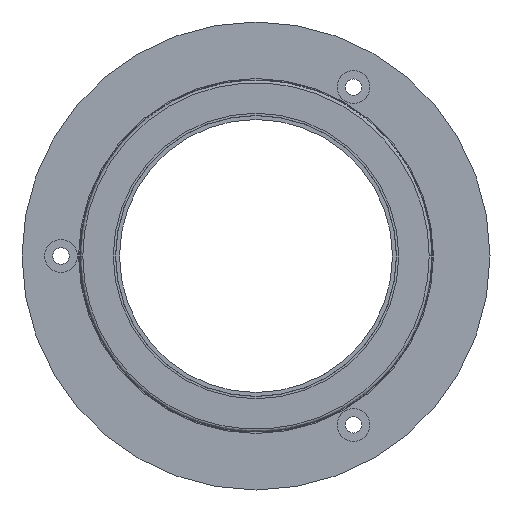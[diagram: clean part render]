
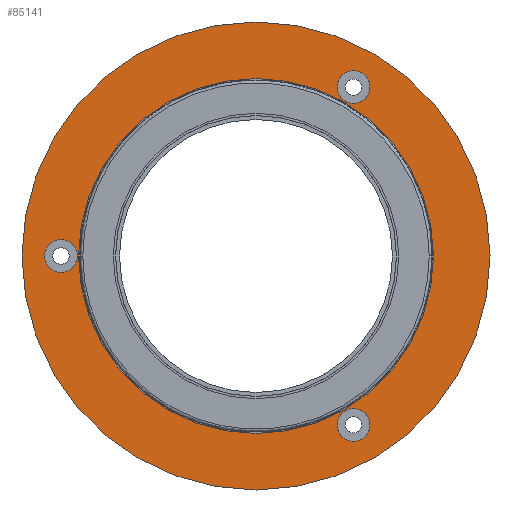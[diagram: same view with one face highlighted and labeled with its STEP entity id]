
A CAD part, left-side view. The second image highlights one B-rep face of the part: STEP entity #85141.
In plain terms, the highlighted planar face has unit normal (-1, 0, 0).
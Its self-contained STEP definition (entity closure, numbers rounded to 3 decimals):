
#772 = EDGE_CURVE ( 'NONE', #14316, #62336, #26519, .T. ) ;
#2471 = ORIENTED_EDGE ( 'NONE', *, *, #91689, .T. ) ;
#2854 = ORIENTED_EDGE ( 'NONE', *, *, #772, .T. ) ;
#4130 = CIRCLE ( 'NONE', #22146, 20. ) ;
#4629 = FACE_BOUND ( 'NONE', #65560, .T. ) ;
#6278 = DIRECTION ( 'NONE',  ( 1., 0., 0. ) ) ;
#6625 = ORIENTED_EDGE ( 'NONE', *, *, #60960, .T. ) ;
#12298 = EDGE_CURVE ( 'NONE', #62336, #14316, #62349, .T. ) ;
#13210 = CARTESIAN_POINT ( 'NONE',  ( 2.8, -20., 0. ) ) ;
#14316 = VERTEX_POINT ( 'NONE', #68301 ) ;
#14684 = CARTESIAN_POINT ( 'NONE',  ( 2.8, -10.4, 21.651 ) ) ;
#15348 = CARTESIAN_POINT ( 'NONE',  ( 2.8, 27.1, 0. ) ) ;
#18537 = CARTESIAN_POINT ( 'NONE',  ( 2.8, -10.4, -21.651 ) ) ;
#18842 = CARTESIAN_POINT ( 'NONE',  ( 2.8, 0., 0. ) ) ;
#19242 = CARTESIAN_POINT ( 'NONE',  ( 2.8, -12.5, 21.651 ) ) ;
#22034 = DIRECTION ( 'NONE',  ( 1., 0., 0. ) ) ;
#22146 = AXIS2_PLACEMENT_3D ( 'NONE', #96367, #22034, #74191 ) ;
#22235 = DIRECTION ( 'NONE',  ( 0., -1., 0. ) ) ;
#22316 = DIRECTION ( 'NONE',  ( 0., 1., 0. ) ) ;
#22783 = CARTESIAN_POINT ( 'NONE',  ( 2.8, 20., 0. ) ) ;
#26211 = DIRECTION ( 'NONE',  ( 1., 0., 0. ) ) ;
#26519 = CIRCLE ( 'NONE', #63011, 2.1 ) ;
#28108 = VERTEX_POINT ( 'NONE', #88321 ) ;
#29002 = DIRECTION ( 'NONE',  ( 0., -1., 0. ) ) ;
#29402 = CIRCLE ( 'NONE', #52008, 20. ) ;
#31077 = AXIS2_PLACEMENT_3D ( 'NONE', #22783, #82448, #43999 ) ;
#31236 = CIRCLE ( 'NONE', #38619, 2.1 ) ;
#31737 = EDGE_CURVE ( 'NONE', #73691, #96396, #72770, .T. ) ;
#33912 = AXIS2_PLACEMENT_3D ( 'NONE', #96348, #51674, #22316 ) ;
#35327 = AXIS2_PLACEMENT_3D ( 'NONE', #39798, #85768, #77668 ) ;
#36133 = FACE_BOUND ( 'NONE', #44601, .T. ) ;
#37114 = EDGE_CURVE ( 'NONE', #61083, #93276, #4130, .T. ) ;
#37626 = DIRECTION ( 'NONE',  ( 1., 0., 0. ) ) ;
#37689 = AXIS2_PLACEMENT_3D ( 'NONE', #67523, #59405, #29002 ) ;
#37799 = AXIS2_PLACEMENT_3D ( 'NONE', #52245, #6278, #22235 ) ;
#38619 = AXIS2_PLACEMENT_3D ( 'NONE', #55945, #26211, #78459 ) ;
#39798 = CARTESIAN_POINT ( 'NONE',  ( 2.8, -12.5, -21.651 ) ) ;
#40110 = CARTESIAN_POINT ( 'NONE',  ( 2.8, -14.6, 21.651 ) ) ;
#40281 = ORIENTED_EDGE ( 'NONE', *, *, #58977, .T. ) ;
#41851 = EDGE_LOOP ( 'NONE', ( #55276, #40281 ) ) ;
#41949 = FACE_BOUND ( 'NONE', #41851, .T. ) ;
#43999 = DIRECTION ( 'NONE',  ( 0., -1., 0. ) ) ;
#44425 = AXIS2_PLACEMENT_3D ( 'NONE', #19242, #92638, #62991 ) ;
#44601 = EDGE_LOOP ( 'NONE', ( #2854, #46333 ) ) ;
#46333 = ORIENTED_EDGE ( 'NONE', *, *, #12298, .T. ) ;
#48664 = EDGE_CURVE ( 'NONE', #93276, #61083, #29402, .T. ) ;
#49491 = CARTESIAN_POINT ( 'NONE',  ( 2.8, 0., 0. ) ) ;
#50455 = DIRECTION ( 'NONE',  ( -1., 0., 0. ) ) ;
#51458 = AXIS2_PLACEMENT_3D ( 'NONE', #49491, #50455, #56971 ) ;
#51674 = DIRECTION ( 'NONE',  ( -1., 0., 0. ) ) ;
#52008 = AXIS2_PLACEMENT_3D ( 'NONE', #18842, #71011, #63836 ) ;
#52245 = CARTESIAN_POINT ( 'NONE',  ( 2.8, -12.5, -21.651 ) ) ;
#54105 = ORIENTED_EDGE ( 'NONE', *, *, #67268, .T. ) ;
#55276 = ORIENTED_EDGE ( 'NONE', *, *, #69725, .T. ) ;
#55945 = CARTESIAN_POINT ( 'NONE',  ( 2.8, -12.5, 21.651 ) ) ;
#56320 = ORIENTED_EDGE ( 'NONE', *, *, #48664, .T. ) ;
#56971 = DIRECTION ( 'NONE',  ( 0., 1., 0. ) ) ;
#57170 = CIRCLE ( 'NONE', #35327, 2.1 ) ;
#57210 = CARTESIAN_POINT ( 'NONE',  ( 2.8, 20., 0. ) ) ;
#58041 = CIRCLE ( 'NONE', #51458, 30. ) ;
#58977 = EDGE_CURVE ( 'NONE', #76692, #67404, #57170, .T. ) ;
#59405 = DIRECTION ( 'NONE',  ( 1., 0., 0. ) ) ;
#60397 = EDGE_LOOP ( 'NONE', ( #54105, #2471 ) ) ;
#60832 = CIRCLE ( 'NONE', #37799, 2.1 ) ;
#60960 = EDGE_CURVE ( 'NONE', #96396, #73691, #31236, .T. ) ;
#61083 = VERTEX_POINT ( 'NONE', #57210 ) ;
#62336 = VERTEX_POINT ( 'NONE', #15348 ) ;
#62349 = CIRCLE ( 'NONE', #37689, 2.1 ) ;
#62991 = DIRECTION ( 'NONE',  ( 0., -1., 0. ) ) ;
#63011 = AXIS2_PLACEMENT_3D ( 'NONE', #81671, #37626, #88547 ) ;
#63836 = DIRECTION ( 'NONE',  ( 0., 1., 0. ) ) ;
#65560 = EDGE_LOOP ( 'NONE', ( #6625, #82482 ) ) ;
#67268 = EDGE_CURVE ( 'NONE', #28108, #79413, #96176, .T. ) ;
#67404 = VERTEX_POINT ( 'NONE', #84227 ) ;
#67523 = CARTESIAN_POINT ( 'NONE',  ( 2.8, 25., 0. ) ) ;
#68301 = CARTESIAN_POINT ( 'NONE',  ( 2.8, 22.9, 0. ) ) ;
#69725 = EDGE_CURVE ( 'NONE', #67404, #76692, #60832, .T. ) ;
#71011 = DIRECTION ( 'NONE',  ( 1., 0., 0. ) ) ;
#72770 = CIRCLE ( 'NONE', #44425, 2.1 ) ;
#73691 = VERTEX_POINT ( 'NONE', #14684 ) ;
#74191 = DIRECTION ( 'NONE',  ( 0., 1., 0. ) ) ;
#76692 = VERTEX_POINT ( 'NONE', #18537 ) ;
#76985 = ORIENTED_EDGE ( 'NONE', *, *, #37114, .T. ) ;
#77668 = DIRECTION ( 'NONE',  ( 0., -1., 0. ) ) ;
#78459 = DIRECTION ( 'NONE',  ( 0., -1., 0. ) ) ;
#79413 = VERTEX_POINT ( 'NONE', #94604 ) ;
#80579 = EDGE_LOOP ( 'NONE', ( #76985, #56320 ) ) ;
#81614 = FACE_OUTER_BOUND ( 'NONE', #60397, .T. ) ;
#81671 = CARTESIAN_POINT ( 'NONE',  ( 2.8, 25., 0. ) ) ;
#82448 = DIRECTION ( 'NONE',  ( -1., 0., 0. ) ) ;
#82482 = ORIENTED_EDGE ( 'NONE', *, *, #31737, .T. ) ;
#82770 = PLANE ( 'NONE',  #31077 ) ;
#84227 = CARTESIAN_POINT ( 'NONE',  ( 2.8, -14.6, -21.651 ) ) ;
#85141 = ADVANCED_FACE ( 'NONE', ( #81614, #93311, #4629, #41949, #36133 ), #82770, .T. ) ;
#85768 = DIRECTION ( 'NONE',  ( 1., 0., 0. ) ) ;
#88321 = CARTESIAN_POINT ( 'NONE',  ( 2.8, 30., 0. ) ) ;
#88547 = DIRECTION ( 'NONE',  ( 0., -1., 0. ) ) ;
#91689 = EDGE_CURVE ( 'NONE', #79413, #28108, #58041, .T. ) ;
#92638 = DIRECTION ( 'NONE',  ( 1., 0., 0. ) ) ;
#93276 = VERTEX_POINT ( 'NONE', #13210 ) ;
#93311 = FACE_BOUND ( 'NONE', #80579, .T. ) ;
#94604 = CARTESIAN_POINT ( 'NONE',  ( 2.8, -30., 0. ) ) ;
#96176 = CIRCLE ( 'NONE', #33912, 30. ) ;
#96348 = CARTESIAN_POINT ( 'NONE',  ( 2.8, 0., 0. ) ) ;
#96367 = CARTESIAN_POINT ( 'NONE',  ( 2.8, 0., 0. ) ) ;
#96396 = VERTEX_POINT ( 'NONE', #40110 ) ;
